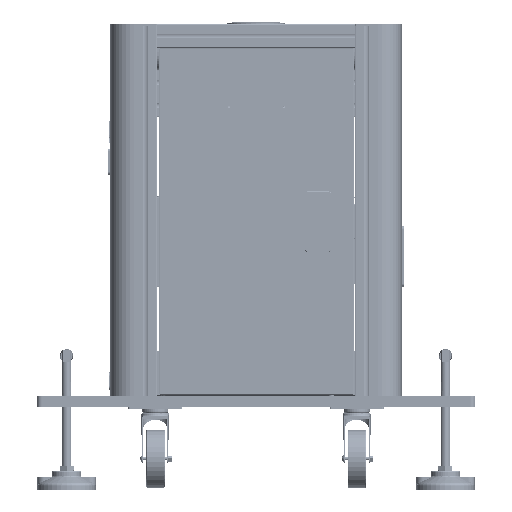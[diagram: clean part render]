
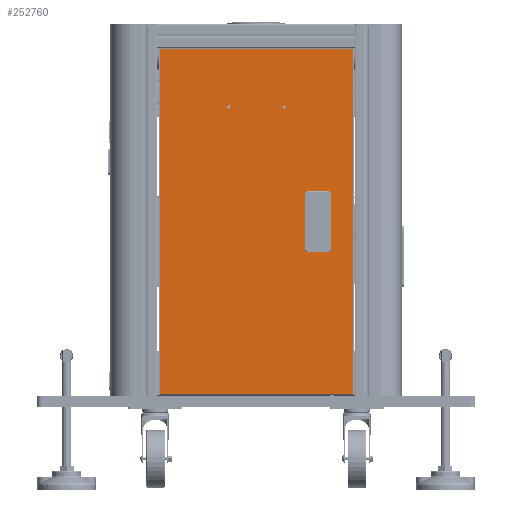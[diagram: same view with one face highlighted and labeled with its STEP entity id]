
A CAD part, front view. The second image highlights one B-rep face of the part: STEP entity #252760.
In plain terms, the highlighted planar face has unit normal (0, -1, 0).
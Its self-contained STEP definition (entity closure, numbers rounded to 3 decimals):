
#251567=DIRECTION('',(1.,0.,0.));
#251568=VECTOR('',#251567,331.6);
#251569=CARTESIAN_POINT('',(211.7,0.,23.1));
#251570=LINE('',#251569,#251568);
#251575=CARTESIAN_POINT('',(425.5,0.,516.));
#251576=DIRECTION('',(0.,-1.,0.));
#251577=DIRECTION('',(-1.,0.,0.));
#251578=AXIS2_PLACEMENT_3D('',#251575,#251576,#251577);
#251580=CARTESIAN_POINT('',(425.5,0.,516.));
#251581=DIRECTION('',(0.,-1.,0.));
#251582=DIRECTION('',(1.,0.,0.));
#251583=AXIS2_PLACEMENT_3D('',#251580,#251581,#251582);
#251585=CARTESIAN_POINT('',(330.5,0.,516.));
#251586=DIRECTION('',(0.,-1.,0.));
#251587=DIRECTION('',(1.,0.,0.));
#251588=AXIS2_PLACEMENT_3D('',#251585,#251586,#251587);
#251590=CARTESIAN_POINT('',(330.5,0.,516.));
#251591=DIRECTION('',(0.,-1.,0.));
#251592=DIRECTION('',(-1.,0.,0.));
#251593=AXIS2_PLACEMENT_3D('',#251590,#251591,#251592);
#251599=DIRECTION('',(-1.,0.,0.));
#251600=VECTOR('',#251599,331.6);
#251601=CARTESIAN_POINT('',(543.3,0.,614.9));
#251602=LINE('',#251601,#251600);
#251615=DIRECTION('',(0.,0.,1.));
#251616=VECTOR('',#251615,0.1);
#251617=CARTESIAN_POINT('',(543.3,0.,614.8));
#251618=LINE('',#251617,#251616);
#251663=DIRECTION('',(-1.,0.,0.));
#251664=VECTOR('',#251663,0.1);
#251665=CARTESIAN_POINT('',(543.4,0.,614.8));
#251666=LINE('',#251665,#251664);
#251687=DIRECTION('',(1.,0.,0.));
#251688=VECTOR('',#251687,0.1);
#251689=CARTESIAN_POINT('',(543.3,0.,23.2));
#251690=LINE('',#251689,#251688);
#251727=DIRECTION('',(0.,0.,1.));
#251728=VECTOR('',#251727,0.1);
#251729=CARTESIAN_POINT('',(543.3,0.,23.1));
#251730=LINE('',#251729,#251728);
#251743=DIRECTION('',(0.,0.,1.));
#251744=VECTOR('',#251743,591.6);
#251745=CARTESIAN_POINT('',(543.4,0.,23.2));
#251746=LINE('',#251745,#251744);
#251939=DIRECTION('',(0.,0.,-1.));
#251940=VECTOR('',#251939,0.1);
#251941=CARTESIAN_POINT('',(211.7,0.,614.9));
#251942=LINE('',#251941,#251940);
#251959=DIRECTION('',(-1.,0.,0.));
#251960=VECTOR('',#251959,0.1);
#251961=CARTESIAN_POINT('',(211.7,0.,614.8));
#251962=LINE('',#251961,#251960);
#251985=DIRECTION('',(0.,0.,-1.));
#251986=VECTOR('',#251985,591.6);
#251987=CARTESIAN_POINT('',(211.6,0.,614.8));
#251988=LINE('',#251987,#251986);
#252015=DIRECTION('',(1.,0.,0.));
#252016=VECTOR('',#252015,0.1);
#252017=CARTESIAN_POINT('',(211.6,0.,23.2));
#252018=LINE('',#252017,#252016);
#252083=DIRECTION('',(0.,0.,-1.));
#252084=VECTOR('',#252083,0.1);
#252085=CARTESIAN_POINT('',(211.7,0.,23.2));
#252086=LINE('',#252085,#252084);
#252137=DIRECTION('',(0.,0.,1.));
#252138=VECTOR('',#252137,96.5);
#252139=CARTESIAN_POINT('',(463.2,0.,270.75));
#252140=LINE('',#252139,#252138);
#252145=DIRECTION('',(-1.,0.,0.));
#252146=VECTOR('',#252145,40.2);
#252147=CARTESIAN_POINT('',(503.4,0.,270.75));
#252148=LINE('',#252147,#252146);
#252153=DIRECTION('',(0.,0.,-1.));
#252154=VECTOR('',#252153,96.5);
#252155=CARTESIAN_POINT('',(503.4,0.,367.25));
#252156=LINE('',#252155,#252154);
#252161=DIRECTION('',(1.,0.,0.));
#252162=VECTOR('',#252161,40.2);
#252163=CARTESIAN_POINT('',(463.2,0.,367.25));
#252164=LINE('',#252163,#252162);
#252277=CARTESIAN_POINT('',(211.7,0.,23.1));
#252278=CARTESIAN_POINT('',(543.3,0.,23.1));
#252279=VERTEX_POINT('',#252277);
#252280=VERTEX_POINT('',#252278);
#252281=CARTESIAN_POINT('',(543.3,0.,614.9));
#252282=CARTESIAN_POINT('',(211.7,0.,614.9));
#252283=VERTEX_POINT('',#252281);
#252284=VERTEX_POINT('',#252282);
#252285=CARTESIAN_POINT('',(543.3,0.,614.8));
#252286=VERTEX_POINT('',#252285);
#252287=CARTESIAN_POINT('',(543.4,0.,614.8));
#252288=VERTEX_POINT('',#252287);
#252289=CARTESIAN_POINT('',(543.4,0.,23.2));
#252290=VERTEX_POINT('',#252289);
#252291=CARTESIAN_POINT('',(543.3,0.,23.2));
#252292=VERTEX_POINT('',#252291);
#252293=CARTESIAN_POINT('',(211.7,0.,23.2));
#252294=VERTEX_POINT('',#252293);
#252295=CARTESIAN_POINT('',(211.6,0.,23.2));
#252296=VERTEX_POINT('',#252295);
#252297=CARTESIAN_POINT('',(211.6,0.,614.8));
#252298=VERTEX_POINT('',#252297);
#252299=CARTESIAN_POINT('',(211.7,0.,614.8));
#252300=VERTEX_POINT('',#252299);
#252301=CARTESIAN_POINT('',(422.75,0.,516.));
#252302=CARTESIAN_POINT('',(428.25,0.,516.));
#252303=VERTEX_POINT('',#252301);
#252304=VERTEX_POINT('',#252302);
#252305=CARTESIAN_POINT('',(333.25,0.,516.));
#252306=CARTESIAN_POINT('',(327.75,0.,516.));
#252307=VERTEX_POINT('',#252305);
#252308=VERTEX_POINT('',#252306);
#252309=CARTESIAN_POINT('',(463.2,0.,270.75));
#252310=CARTESIAN_POINT('',(463.2,0.,367.25));
#252311=VERTEX_POINT('',#252309);
#252312=VERTEX_POINT('',#252310);
#252313=CARTESIAN_POINT('',(503.4,0.,270.75));
#252314=VERTEX_POINT('',#252313);
#252315=CARTESIAN_POINT('',(503.4,0.,367.25));
#252316=VERTEX_POINT('',#252315);
#252708=CARTESIAN_POINT('',(546.,0.,616.5));
#252709=DIRECTION('',(0.,1.,0.));
#252710=DIRECTION('',(0.,0.,-1.));
#252711=AXIS2_PLACEMENT_3D('',#252708,#252709,#252710);
#252712=PLANE('',#252711);
#252714=ORIENTED_EDGE('',*,*,#252713,.F.);
#252716=ORIENTED_EDGE('',*,*,#252715,.F.);
#252718=ORIENTED_EDGE('',*,*,#252717,.F.);
#252720=ORIENTED_EDGE('',*,*,#252719,.F.);
#252722=ORIENTED_EDGE('',*,*,#252721,.F.);
#252724=ORIENTED_EDGE('',*,*,#252723,.F.);
#252725=ORIENTED_EDGE('',*,*,#252698,.F.);
#252727=ORIENTED_EDGE('',*,*,#252726,.F.);
#252729=ORIENTED_EDGE('',*,*,#252728,.F.);
#252731=ORIENTED_EDGE('',*,*,#252730,.F.);
#252733=ORIENTED_EDGE('',*,*,#252732,.F.);
#252735=ORIENTED_EDGE('',*,*,#252734,.F.);
#252736=EDGE_LOOP('',(#252714,#252716,#252718,#252720,#252722,#252724,#252725,
#252727,#252729,#252731,#252733,#252735));
#252737=FACE_OUTER_BOUND('',#252736,.F.);
#252739=ORIENTED_EDGE('',*,*,#252738,.T.);
#252741=ORIENTED_EDGE('',*,*,#252740,.T.);
#252742=EDGE_LOOP('',(#252739,#252741));
#252743=FACE_BOUND('',#252742,.F.);
#252745=ORIENTED_EDGE('',*,*,#252744,.T.);
#252747=ORIENTED_EDGE('',*,*,#252746,.T.);
#252748=EDGE_LOOP('',(#252745,#252747));
#252749=FACE_BOUND('',#252748,.F.);
#252751=ORIENTED_EDGE('',*,*,#252750,.F.);
#252753=ORIENTED_EDGE('',*,*,#252752,.F.);
#252755=ORIENTED_EDGE('',*,*,#252754,.F.);
#252757=ORIENTED_EDGE('',*,*,#252756,.F.);
#252758=EDGE_LOOP('',(#252751,#252753,#252755,#252757));
#252759=FACE_BOUND('',#252758,.F.);
#252760=ADVANCED_FACE('',(#252737,#252743,#252749,#252759),#252712,.F.);
#251579=CIRCLE('',#251578,2.75);
#251584=CIRCLE('',#251583,2.75);
#251589=CIRCLE('',#251588,2.75);
#251594=CIRCLE('',#251593,2.75);
#252698=EDGE_CURVE('',#252279,#252280,#251570,.T.);
#252713=EDGE_CURVE('',#252283,#252284,#251602,.T.);
#252715=EDGE_CURVE('',#252286,#252283,#251618,.T.);
#252717=EDGE_CURVE('',#252288,#252286,#251666,.T.);
#252719=EDGE_CURVE('',#252290,#252288,#251746,.T.);
#252721=EDGE_CURVE('',#252292,#252290,#251690,.T.);
#252723=EDGE_CURVE('',#252280,#252292,#251730,.T.);
#252726=EDGE_CURVE('',#252294,#252279,#252086,.T.);
#252728=EDGE_CURVE('',#252296,#252294,#252018,.T.);
#252730=EDGE_CURVE('',#252298,#252296,#251988,.T.);
#252732=EDGE_CURVE('',#252300,#252298,#251962,.T.);
#252734=EDGE_CURVE('',#252284,#252300,#251942,.T.);
#252738=EDGE_CURVE('',#252303,#252304,#251579,.T.);
#252740=EDGE_CURVE('',#252304,#252303,#251584,.T.);
#252744=EDGE_CURVE('',#252307,#252308,#251589,.T.);
#252746=EDGE_CURVE('',#252308,#252307,#251594,.T.);
#252750=EDGE_CURVE('',#252311,#252312,#252140,.T.);
#252752=EDGE_CURVE('',#252314,#252311,#252148,.T.);
#252754=EDGE_CURVE('',#252316,#252314,#252156,.T.);
#252756=EDGE_CURVE('',#252312,#252316,#252164,.T.);
